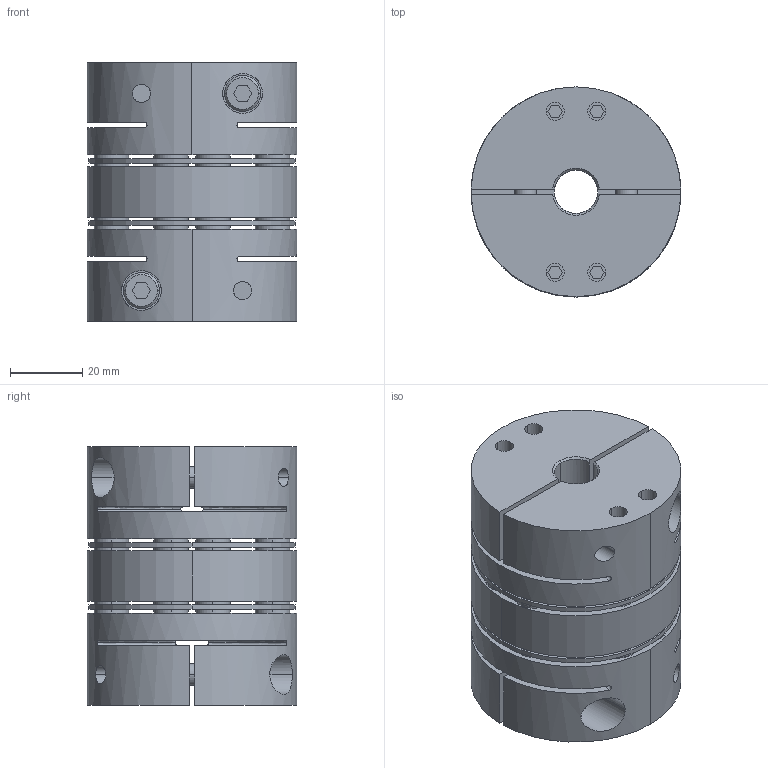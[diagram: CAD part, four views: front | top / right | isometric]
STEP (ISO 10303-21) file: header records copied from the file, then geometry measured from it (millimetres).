
FILE_DESCRIPTION((''),'2;1');
FILE_NAME('TAD-58C-12×14.stp','2022-11-13T21:46:49',(''),(''),'AutoCAD STEP 2000i','AutoCAD 2000i',', , ');
FILE_SCHEMA(('CONFIG_CONTROL_DESIGN'));
Length unit declared in the file: millimetre
Products named in the file (6): TAD-58C-12×12; 忣兜1; TA58C-12-2; CAP-M6×20; TA58C-12; TAS-58C-ITA
Assembly tree (6 placements, depth 3):
  TAD-58C-12×12
    忣兜1
    TA58C-12-2
      CAP-M6×20
    TA58C-12
      CAP-M6×20
    TAS-58C-ITA
Bounding box: 58 x 58 x 71.5 mm (x, y, z)
Volume: 141648.7 mm3; surface area: 56510.1 mm2
Topology: 1 solids, 5 shells, 568 faces, 1362 edges, 920 vertices
Faces by surface type: plane 252, cylinder 228, cone 72, bspline 16
Entity records: 18773 total; most frequent: CARTESIAN_POINT 4991, DIRECTION 2994, ORIENTED_EDGE 2640, EDGE_CURVE 1320, AXIS2_PLACEMENT_3D 1139, VERTEX_POINT 860, EDGE_LOOP 724, VECTOR 716
